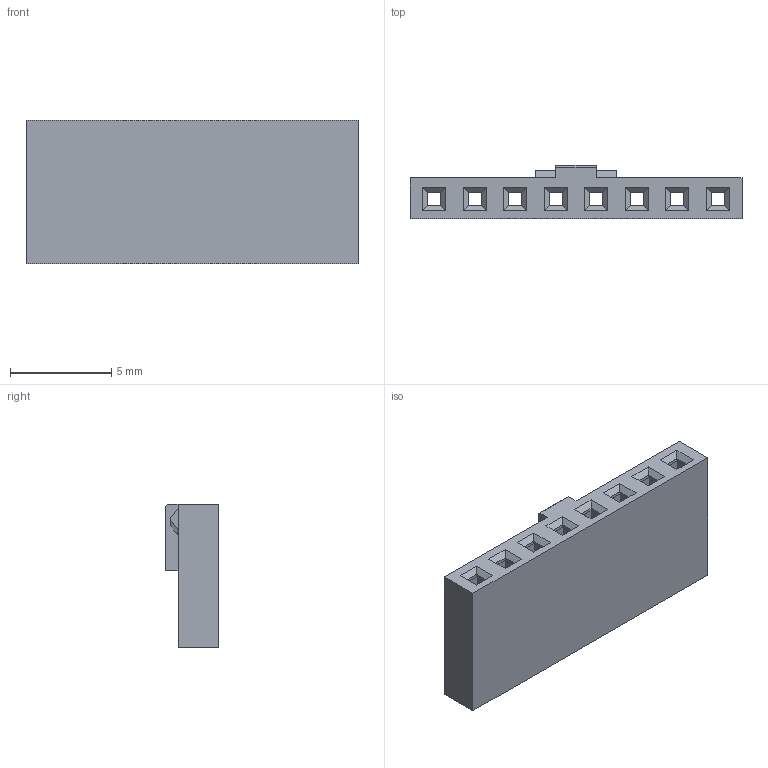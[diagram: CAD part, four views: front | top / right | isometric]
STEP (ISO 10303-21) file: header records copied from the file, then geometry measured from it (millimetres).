
FILE_DESCRIPTION((''),'2;1');
FILE_NAME('90312-008LF','2007-12-10T',('lpotteiger'),('FCI USA, Inc. - CDC Division'),'PRO/ENGINEER BY PARAMETRIC TECHNOLOGY CORPORATION, 2005380','PRO/ENGINEER BY PARAMETRIC TECHNOLOGY CORPORATION, 2005380','');
FILE_SCHEMA(('CONFIG_CONTROL_DESIGN'));
Length unit declared in the file: millimetre
Products named in the file (1): 90312-008LF
Bounding box: 16.4 x 2.62 x 7.1 mm (x, y, z)
Volume: 112.9 mm3; surface area: 659.7 mm2
Topology: 1 solids, 1 shells, 130 faces, 325 edges, 206 vertices
Faces by surface type: plane 130
Entity records: 3823 total; most frequent: CARTESIAN_POINT 661, ORIENTED_EDGE 650, DIRECTION 585, VECTOR 325, LINE 325, EDGE_CURVE 325, VERTEX_POINT 206, EDGE_LOOP 155
